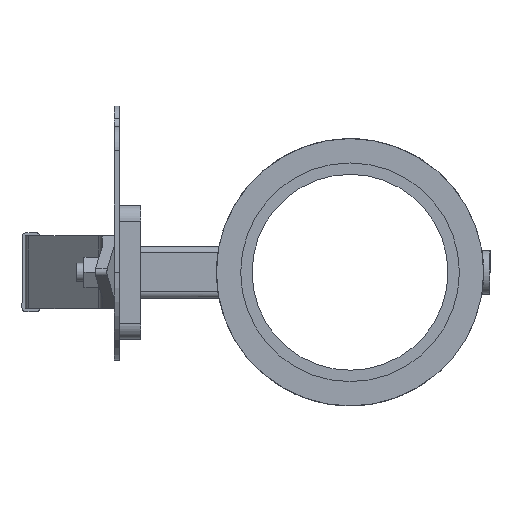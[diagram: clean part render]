
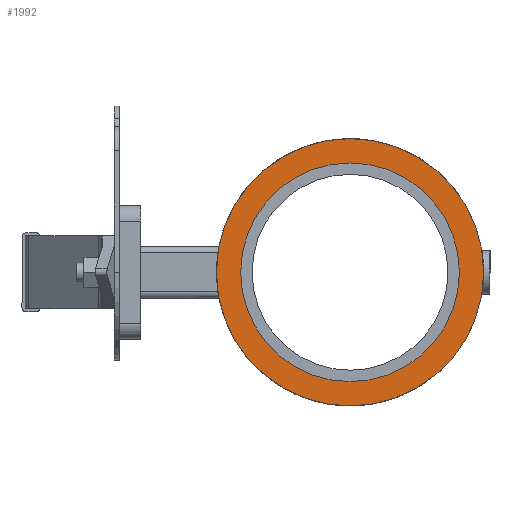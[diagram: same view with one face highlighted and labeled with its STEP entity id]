
A CAD part, left-side view. The second image highlights one B-rep face of the part: STEP entity #1992.
In plain terms, the highlighted planar face has unit normal (-1, 0, 0).
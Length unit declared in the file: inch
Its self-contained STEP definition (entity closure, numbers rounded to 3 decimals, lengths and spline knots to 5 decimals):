
#49=FACE_BOUND('',#278,.T.);
#86=PLANE('',#2252);
#157=FACE_OUTER_BOUND('',#277,.T.);
#277=EDGE_LOOP('',(#1431,#1432));
#278=EDGE_LOOP('',(#1433,#1434));
#674=CIRCLE('',#2174,2.75);
#675=CIRCLE('',#2175,2.75);
#716=CIRCLE('',#2250,2.1425);
#717=CIRCLE('',#2251,2.1425);
#801=VERTEX_POINT('',#3049);
#802=VERTEX_POINT('',#3051);
#858=VERTEX_POINT('',#3271);
#859=VERTEX_POINT('',#3272);
#982=EDGE_CURVE('',#801,#802,#674,.T.);
#983=EDGE_CURVE('',#802,#801,#675,.T.);
#1068=EDGE_CURVE('',#858,#859,#716,.T.);
#1069=EDGE_CURVE('',#859,#858,#717,.T.);
#1431=ORIENTED_EDGE('',*,*,#983,.F.);
#1432=ORIENTED_EDGE('',*,*,#982,.F.);
#1433=ORIENTED_EDGE('',*,*,#1068,.T.);
#1434=ORIENTED_EDGE('',*,*,#1069,.T.);
#1992=ADVANCED_FACE('',(#157,#49),#86,.T.);
#2174=AXIS2_PLACEMENT_3D('',#3052,#2409,#2410);
#2175=AXIS2_PLACEMENT_3D('',#3053,#2411,#2412);
#2250=AXIS2_PLACEMENT_3D('',#3273,#2601,#2602);
#2251=AXIS2_PLACEMENT_3D('',#3274,#2603,#2604);
#2252=AXIS2_PLACEMENT_3D('',#3276,#2606,#2607);
#2409=DIRECTION('center_axis',(1.,0.,0.));
#2410=DIRECTION('ref_axis',(0.,0.,-1.));
#2411=DIRECTION('center_axis',(1.,0.,0.));
#2412=DIRECTION('ref_axis',(0.,0.,-1.));
#2601=DIRECTION('center_axis',(1.,0.,0.));
#2602=DIRECTION('ref_axis',(0.,0.,-1.));
#2603=DIRECTION('center_axis',(1.,0.,0.));
#2604=DIRECTION('ref_axis',(0.,0.,-1.));
#2606=DIRECTION('center_axis',(-1.,0.,0.));
#2607=DIRECTION('ref_axis',(0.,0.,1.));
#3049=CARTESIAN_POINT('',(-1.76,-2.75,0.));
#3051=CARTESIAN_POINT('',(-1.76,2.75,0.));
#3052=CARTESIAN_POINT('Origin',(-1.76,0.,0.));
#3053=CARTESIAN_POINT('Origin',(-1.76,0.,0.));
#3271=CARTESIAN_POINT('',(-1.76,2.1425,0.));
#3272=CARTESIAN_POINT('',(-1.76,-2.1425,0.));
#3273=CARTESIAN_POINT('Origin',(-1.76,0.,0.));
#3274=CARTESIAN_POINT('Origin',(-1.76,0.,0.));
#3276=CARTESIAN_POINT('Origin',(-1.76,2.25,0.));
